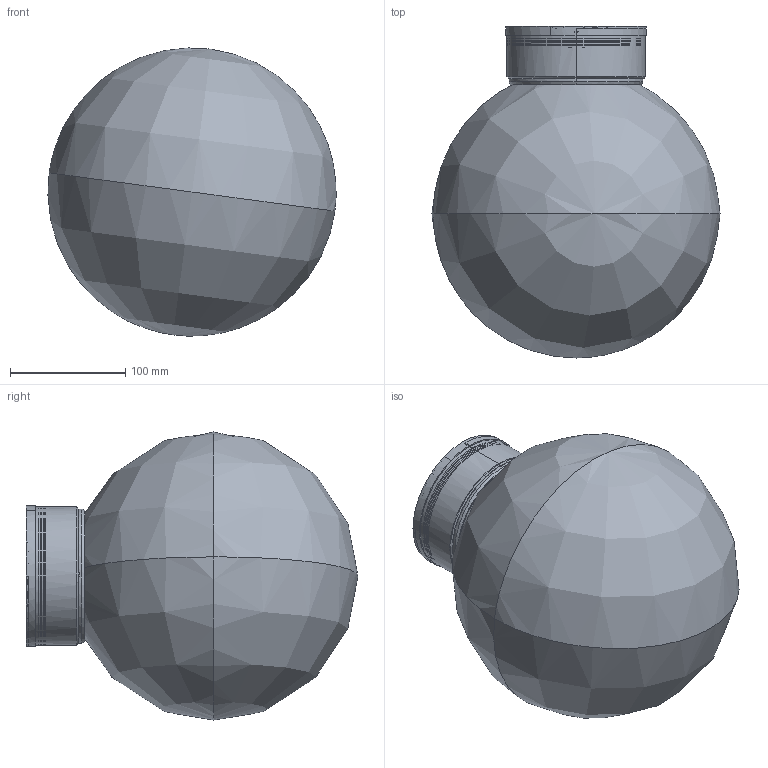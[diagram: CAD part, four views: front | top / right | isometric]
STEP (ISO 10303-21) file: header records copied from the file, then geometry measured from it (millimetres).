
FILE_DESCRIPTION(/* description */ (''),/* implementation_level */ '2;1');
FILE_NAME(/* name */ 'Surface',/* time_stamp */ '2022-07-13T16:54:11+01:00',/* author */ (''),/* organization */ (''),/* preprocessor_version */ 'ST-DEVELOPER v16.5',/* originating_system */ '',/* authorisation */ '');
FILE_SCHEMA (('AUTOMOTIVE_DESIGN'));
Products named in the file (57): Document; 2018-6-25-ASM0001-2_ASM; 2018-6-25-PRT0001; MAGNITUDE_CCTW350_ANY; MEGAMAN_LD0509X1D-C350_ANY; 2018-6-25-PRT0002; 2018-06-14_LEDP01_DIFFUSER_VER0; 20180512_BACK_PLATE_EU_ASM_30_ASM; FIXING_PLATE_S_18; IP44_GROMET_2; SILICON_12; BACK_SILISONE_5; PRT0001; STRAIN_RELIEF_BRIDGE_1; LEDP01_SILICONE_GRIP_1; LEDS01_DOME_COVER_7; PRT0002; 2018-3-1_MBA12_REFLECTOR_ANY_2; THREADED_D_TUBE_1; PRT0086_1; LED_CHIP_REVC_ASM_1_ASM; SPLIT_LINE4_1; BOSS-EXTRUDE5_10__1; CIRPATTERN2_18__1; CIRPATTERN2_3__1; CIRPATTERN2_1__1; CIRPATTERN2_17__1; CIRPATTERN2_5__1; BOSS-EXTRUDE5_2__1; CIRPATTERN2_16__1; BOSS-EXTRUDE5_9__1; CIRPATTERN2_12__1; BOSS-EXTRUDE5_1__1; CIRPATTERN2_4__1; CIRPATTERN2_2__1; BOSS-EXTRUDE5_6__1; CIRPATTERN2_14__1; CIRPATTERN2_7__1; BOSS-EXTRUDE5_5__1; CIRPATTERN2_13__1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
Assembly tree (63 placements, depth 3):
  Document
    2018-6-25-ASM0001-2_ASM
      2018-6-25-PRT0001
      MAGNITUDE_CCTW350_ANY
      MEGAMAN_LD0509X1D-C350_ANY
      2018-6-25-PRT0002
    2018-06-14_LEDP01_DIFFUSER_VER0
    20180512_BACK_PLATE_EU_ASM_30_ASM
      FIXING_PLATE_S_18
      IP44_GROMET_2
      SILICON_12
      BACK_SILISONE_5
    PRT0001  x3
    STRAIN_RELIEF_BRIDGE_1
    LEDP01_SILICONE_GRIP_1  x3
    LEDS01_DOME_COVER_7
    PRT0002  x2
    2018-3-1_MBA12_REFLECTOR_ANY_2
    THREADED_D_TUBE_1
    PRT0086_1
    LED_CHIP_REVC_ASM_1_ASM
      SPLIT_LINE4_1
      BOSS-EXTRUDE5_10__1
      CIRPATTERN2_18__1
      CIRPATTERN2_3__1
      CIRPATTERN2_1__1
      CIRPATTERN2_17__1
      CIRPATTERN2_5__1
      BOSS-EXTRUDE5_2__1
      CIRPATTERN2_16__1
      BOSS-EXTRUDE5_9__1
      CIRPATTERN2_12__1
      BOSS-EXTRUDE5_1__1
      CIRPATTERN2_4__1
      CIRPATTERN2_2__1
      BOSS-EXTRUDE5_6__1
      CIRPATTERN2_14__1
      CIRPATTERN2_7__1
      BOSS-EXTRUDE5_5__1
      CIRPATTERN2_13__1
      BOSS-EXTRUDE5_4__1
      CIRPATTERN2_20__1
      BOSS-EXTRUDE5_8__1
      CIRPATTERN2_19__1
      CIRPATTERN2_6__1
      CIRPATTERN2_15__1
      CIRPATTERN2_11__1
      BOSS-EXTRUDE5_3__1
      BOSS-EXTRUDE5_7__1
      CIRPATTERN2_10__1
      CIRPATTERN2_8__1
      CIRPATTERN2_9__1
    RUBBER_SHADE_SEAL_12
    M10_LOCKING_WASHER_1
    NUT_3  x2
    PRT0003  x2
    2018-02-12 OPAL 25cm Shade
Bounding box: 249.86 x 287.81 x 249.86 mm (x, y, z)
Volume: 814051.8 mm3; surface area: 618574.9 mm2
Topology: 60 solids, 60 shells, 1764 faces, 6332 edges, 4812 vertices
Faces by surface type: plane 886, bspline 878
Entity records: 94045 total; most frequent: CARTESIAN_POINT 57336, ORIENTED_EDGE 11936, EDGE_CURVE 5968, VERTEX_POINT 4602, B_SPLINE_CURVE_WITH_KNOTS 4468, EDGE_LOOP 1844, ADVANCED_FACE 1619, FACE_OUTER_BOUND 1619
